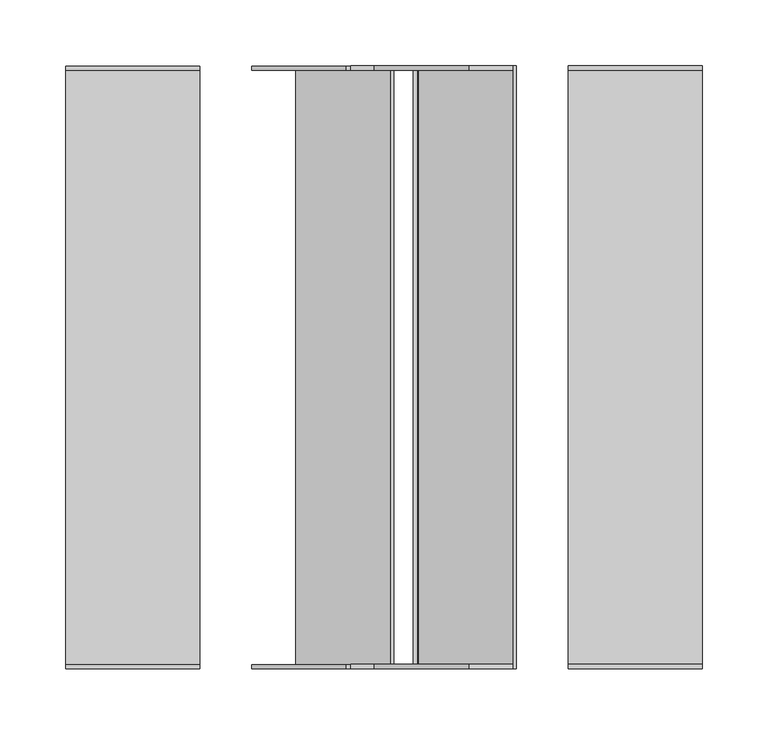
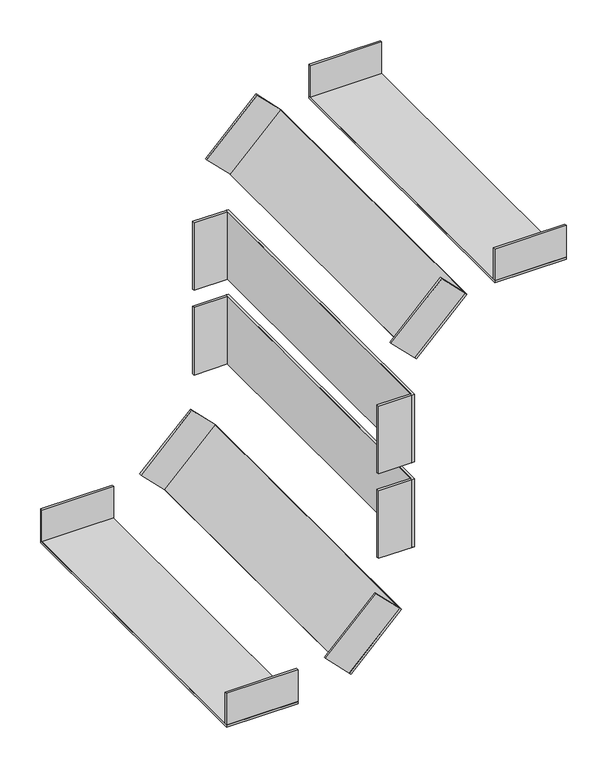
"""IFC4 building model written with IfcOpenShell, lengths in millimetres: cable carrier fitting geometry, Offset-Vertical-Cablofil-Wire_Mesh_Cable_Tray-Cablobend : Cablobend."""

from ifc_helpers import new_model, si_unit, frame, origin, place, context, project, spatial, polyline, outline, extrude, source, transform, mapped, element, save


def cable_carrier_fitting_32664b4b(model_context):
    return source(origin(), model_context, "Body", "SweptSolid", [
        extrude(outline(polyline([(-17.0295455, -228.6), (-17.0295455, 228.6), (-13.8545455, 228.6), (-13.8545455, -228.6), (-17.0295455, -228.6)])), frame((0.0, 0.0, 152.4), z_axis=(0.0, 0.0, 1.0), x_axis=(1.0, 0.0, 0.0)), (0.0, 0.0, 1.0), 101.6),
        extrude(outline(polyline([(-64.6545455, -228.6), (-64.6545455, -225.425), (-17.0295455, -225.425), (-17.0295455, 225.425), (-64.6545455, 225.425), (-64.6545455, 228.6), (-13.8545455, 228.6), (-13.8545455, -228.6), (-64.6545455, -228.6)])), frame((0.0, 0.0, 152.4), z_axis=(0.0, 0.0, 1.0), x_axis=(1.0, 0.0, 0.0)), (0.0, 0.0, 1.0), 101.6),
        extrude(outline(polyline([(3.175, 0.0), (3.175, -457.2), (0.0, -457.2), (0.0, 0.0), (3.175, 0.0)])), frame((-10.648391, -228.6, 432.9517966), z_axis=(0.707106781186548, 0.0, 0.707106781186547), x_axis=(-0.707106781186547, 0.0, 0.707106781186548)), (0.0, 0.0, 1.0), 101.6),
        extrude(outline(polyline([(50.8, 0.0), (50.8, -3.175), (3.175, -3.175), (3.175, -454.025), (50.8, -454.025), (50.8, -457.2), (0.0, -457.2), (0.0, 0.0), (50.8, 0.0)])), frame((-10.648391, -228.6, 432.9517966), z_axis=(0.707106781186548, 0.0, 0.707106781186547), x_axis=(-0.707106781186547, 0.0, 0.707106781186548)), (0.0, 0.0, 1.0), 101.6),
        extrude(outline(polyline([(-17.0295455, -228.6), (-17.0295455, 228.6), (-13.8545455, 228.6), (-13.8545455, -228.6), (-17.0295455, -228.6)])), frame((0.0, 0.0, 279.4), z_axis=(0.0, 0.0, 1.0), x_axis=(1.0, 0.0, 0.0)), (0.0, 0.0, 1.0), 101.6),
        extrude(outline(polyline([(-64.6545455, -228.6), (-64.6545455, -225.425), (-17.0295455, -225.425), (-17.0295455, 225.425), (-64.6545455, 225.425), (-64.6545455, 228.6), (-13.8545455, 228.6), (-13.8545455, -228.6), (-64.6545455, -228.6)])), frame((0.0, 0.0, 279.4), z_axis=(0.0, 0.0, 1.0), x_axis=(1.0, 0.0, 0.0)), (0.0, 0.0, 1.0), 101.6),
        extrude(outline(polyline([(3.175, 0.0), (3.175, -457.2), (0.0, -457.2), (0.0, 0.0), (3.175, 0.0)])), frame((-103.7817244, -228.6, -7.3148701), z_axis=(0.707106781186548, 0.0, 0.707106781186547), x_axis=(-0.707106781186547, 0.0, 0.707106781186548)), (0.0, 0.0, 1.0), 101.6),
        extrude(outline(polyline([(50.8, 0.0), (50.8, -3.175), (3.175, -3.175), (3.175, -454.025), (50.8, -454.025), (50.8, -457.2), (0.0, -457.2), (0.0, 0.0), (50.8, 0.0)])), frame((-103.7817244, -228.6, -7.3148701), z_axis=(0.707106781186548, 0.0, 0.707106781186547), x_axis=(-0.707106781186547, 0.0, 0.707106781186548)), (0.0, 0.0, 1.0), 101.6),
        extrude(outline(polyline([(202.0454545, 228.6), (202.0454545, -228.6), (100.4454545, -228.6), (100.4454545, 228.6), (202.0454545, 228.6)])), frame((0.0, 0.0, 508.0), z_axis=(0.0, 0.0, 1.0), x_axis=(1.0, 0.0, 0.0)), (0.0, 0.0, 1.0), 3.175),
        extrude(outline(polyline([(-228.6, 558.8), (-225.425, 558.8), (-225.425, 511.175), (225.425, 511.175), (225.425, 558.8), (228.6, 558.8), (228.6, 508.0), (-228.6, 508.0), (-228.6, 558.8)])), frame((100.4454545, 0.0, 0.0), z_axis=(1.0, 0.0, 0.0), x_axis=(0.0, 1.0, 0.0)), (0.0, 0.0, 1.0), 101.6),
        extrude(outline(polyline([(-178.9545455, 228.6), (-178.9545455, -228.6), (-280.5545455, -228.6), (-280.5545455, 228.6), (-178.9545455, 228.6)])), frame((0.0, 0.0, -25.4), z_axis=(0.0, 0.0, 1.0), x_axis=(1.0, 0.0, 0.0)), (0.0, 0.0, 1.0), 3.175),
        extrude(outline(polyline([(-228.6, 25.4), (-225.425, 25.4), (-225.425, -22.225), (225.425, -22.225), (225.425, 25.4), (228.6, 25.4), (228.6, -25.4), (-228.6, -25.4), (-228.6, 25.4)])), frame((-280.5545455, 0.0, 0.0), z_axis=(1.0, 0.0, 0.0), x_axis=(0.0, 1.0, 0.0)), (0.0, 0.0, 1.0), 101.6),
    ])


if __name__ == "__main__":
    model = new_model("IFC4")
    model_context = context("Model", 3, world=origin())
    ifc_project = project(units=[si_unit("LENGTHUNIT", "METRE", prefix="MILLI")], contexts=[model_context])
    site = spatial("IfcSite", under=ifc_project)
    building = spatial("IfcBuilding", under=site)
    placement = place(None, origin())
    cable_carrier_fitting_shape = cable_carrier_fitting_32664b4b(model_context)
    element("IfcCableCarrierFitting", 1, ObjectType="Offset-Vertical-Cablofil-Wire_Mesh_Cable_Tray-Cablobend : Cablobend", at=placement, inside=building, context=model_context, shape_type="MappedRepresentation", body=[
        mapped(cable_carrier_fitting_shape, transform((0.0, 0.0, 0.0), x_axis=(1.0, 0.0, 0.0), y_axis=(0.0, 1.0, 0.0), z_axis=(0.0, 0.0, 1.0))),
    ])
    save(model, "model.ifc")
